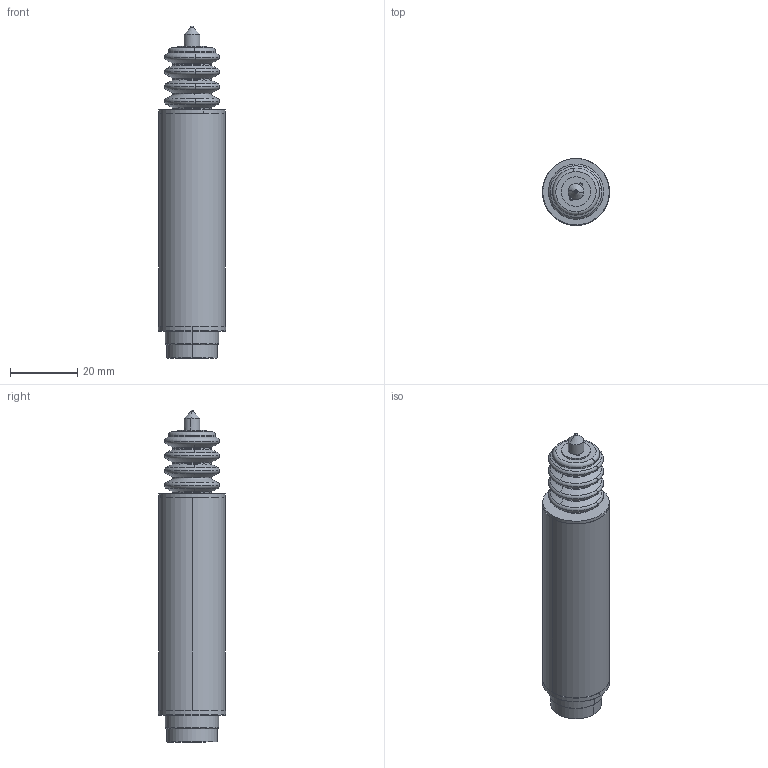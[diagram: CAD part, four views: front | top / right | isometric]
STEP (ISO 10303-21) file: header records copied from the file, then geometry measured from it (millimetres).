
FILE_DESCRIPTION(('STEP AP214'),'1');
FILE_NAME('burster_8741-5002_2a1kvz41olhul80p4un5fqsts.stp','2017-04-21T14:33:25',('TraceParts'),('TraceParts S.A.'),'Spatial InterOp 3D',' ',' ');
FILE_SCHEMA(('automotive_design'));
Length unit declared in the file: millimetre
Products named in the file (1): burster_8741-5002_2a1kvz41olhul80p4un5fqsts
Bounding box: 20 x 20 x 98.9 mm (x, y, z)
Volume: 20989.2 mm3; surface area: 17225.6 mm2
Topology: 1 solids, 5 shells, 336 faces, 867 edges, 540 vertices
Faces by surface type: cylinder 115, plane 80, torus 64, cone 56, sphere 16, bspline 5
Entity records: 14687 total; most frequent: CARTESIAN_POINT 3441, DIRECTION 2010, ORIENTED_EDGE 1694, AXIS2_PLACEMENT_3D 856, EDGE_CURVE 847, VERTEX_POINT 540, CIRCLE 524, EDGE_LOOP 379
